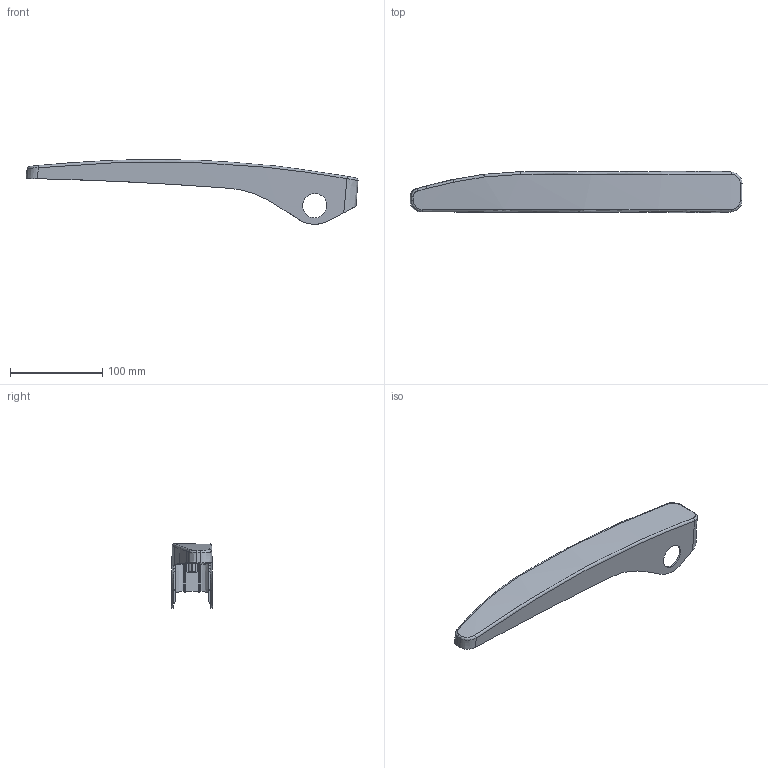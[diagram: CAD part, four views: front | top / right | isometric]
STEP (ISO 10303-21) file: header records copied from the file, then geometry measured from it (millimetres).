
FILE_DESCRIPTION(('CATIA V5 STEP Exchange'),'2;1');
FILE_NAME('F:\福田A6\14-新扶手\3D\新建文件夹\SHT0017848-20250113.stp','2025-01-13T01:49:31+00:00',('none'),('none'),'CATIA Version 5 Release 20 GA (IN-10)','CATIA V5 STEP AP203','none');
FILE_SCHEMA(('CONFIG_CONTROL_DESIGN'));
Products named in the file (1): SHT0017848
Bounding box: 360.75 x 45 x 70.14 mm (x, y, z)
Volume: 72362.8 mm3; surface area: 75563.3 mm2
Topology: 1 solids, 859 shells, 4209 faces, 15155 edges, 11732 vertices
Faces by surface type: plane 3985, bspline 133, cylinder 70, cone 21
Entity records: 203546 total; most frequent: CARTESIAN_POINT 91993, ORIENTED_EDGE 22387, DIRECTION 16460, EDGE_CURVE 15106, VERTEX_POINT 11730, VECTOR 8415, LINE 8415, B_SPLINE_CURVE_WITH_KNOTS 6620
